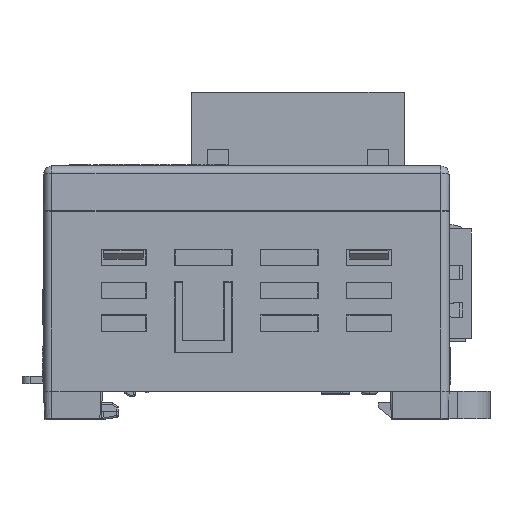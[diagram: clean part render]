
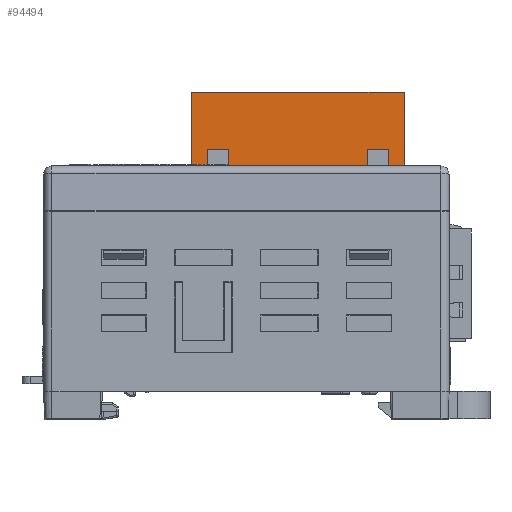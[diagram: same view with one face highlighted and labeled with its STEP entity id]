
A CAD part, left-side view. The second image highlights one B-rep face of the part: STEP entity #94494.
In plain terms, the highlighted planar face has unit normal (-1, 0, 0).
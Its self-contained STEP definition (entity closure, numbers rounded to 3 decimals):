
#1064=DIRECTION('',(0.,1.,0.));
#1065=VECTOR('',#1064,1.);
#1066=CARTESIAN_POINT('',(-13.22,-19.25,27.5));
#1067=LINE('',#1066,#1065);
#1080=DIRECTION('',(0.,1.,0.));
#1081=VECTOR('',#1080,1.);
#1082=CARTESIAN_POINT('',(-13.22,-13.3,27.5));
#1083=LINE('',#1082,#1081);
#1096=DIRECTION('',(0.,1.,0.));
#1097=VECTOR('',#1096,1.);
#1098=CARTESIAN_POINT('',(-13.22,-6.8,27.5));
#1099=LINE('',#1098,#1097);
#1112=DIRECTION('',(0.,1.,0.));
#1113=VECTOR('',#1112,1.);
#1114=CARTESIAN_POINT('',(-13.22,-0.3,27.5));
#1115=LINE('',#1114,#1113);
#1128=DIRECTION('',(0.,1.,0.));
#1129=VECTOR('',#1128,1.);
#1130=CARTESIAN_POINT('',(-13.22,5.65,27.5));
#1131=LINE('',#1130,#1129);
#8278=DIRECTION('',(0.,-1.,0.));
#8279=VECTOR('',#8278,0.9);
#8280=CARTESIAN_POINT('',(-13.22,-17.35,28.));
#8281=LINE('',#8280,#8279);
#8282=DIRECTION('',(0.,-1.,0.));
#8283=VECTOR('',#8282,2.6);
#8284=CARTESIAN_POINT('',(-13.22,-14.75,33.));
#8285=LINE('',#8284,#8283);
#8286=DIRECTION('',(0.,0.,1.));
#8287=VECTOR('',#8286,5.);
#8288=CARTESIAN_POINT('',(-13.22,-14.75,28.));
#8289=LINE('',#8288,#8287);
#8290=DIRECTION('',(0.,-1.,0.));
#8291=VECTOR('',#8290,1.45);
#8292=CARTESIAN_POINT('',(-13.22,-13.3,28.));
#8293=LINE('',#8292,#8291);
#8294=DIRECTION('',(0.,-1.,0.));
#8295=VECTOR('',#8294,5.5);
#8296=CARTESIAN_POINT('',(-13.22,-6.8,28.));
#8297=LINE('',#8296,#8295);
#8298=DIRECTION('',(0.,-1.,0.));
#8299=VECTOR('',#8298,5.5);
#8300=CARTESIAN_POINT('',(-13.22,-0.3,28.));
#8301=LINE('',#8300,#8299);
#8302=DIRECTION('',(0.,-1.,0.));
#8303=VECTOR('',#8302,1.45);
#8304=CARTESIAN_POINT('',(-13.22,2.15,28.));
#8305=LINE('',#8304,#8303);
#8306=DIRECTION('',(0.,-1.,0.));
#8307=VECTOR('',#8306,0.9);
#8308=CARTESIAN_POINT('',(-13.22,5.65,28.));
#8309=LINE('',#8308,#8307);
#8318=DIRECTION('',(0.,0.,1.));
#8319=VECTOR('',#8318,0.5);
#8320=CARTESIAN_POINT('',(-13.22,-18.25,27.5));
#8321=LINE('',#8320,#8319);
#8334=DIRECTION('',(0.,0.,-1.));
#8335=VECTOR('',#8334,12.5);
#8336=CARTESIAN_POINT('',(-13.22,-19.25,40.));
#8337=LINE('',#8336,#8335);
#8466=DIRECTION('',(0.,0.,1.));
#8467=VECTOR('',#8466,12.5);
#8468=CARTESIAN_POINT('',(-13.22,6.65,27.5));
#8469=LINE('',#8468,#8467);
#10216=DIRECTION('',(0.,0.,-1.));
#10217=VECTOR('',#10216,0.5);
#10218=CARTESIAN_POINT('',(-13.22,5.65,28.));
#10219=LINE('',#10218,#10217);
#10484=DIRECTION('',(0.,0.,-1.));
#10485=VECTOR('',#10484,5.);
#10486=CARTESIAN_POINT('',(-13.22,-17.35,33.));
#10487=LINE('',#10486,#10485);
#10820=DIRECTION('',(0.,0.,1.));
#10821=VECTOR('',#10820,5.);
#10822=CARTESIAN_POINT('',(-13.22,4.75,28.));
#10823=LINE('',#10822,#10821);
#10840=DIRECTION('',(0.,-1.,0.));
#10841=VECTOR('',#10840,2.6);
#10842=CARTESIAN_POINT('',(-13.22,4.75,33.));
#10843=LINE('',#10842,#10841);
#10848=DIRECTION('',(0.,0.,-1.));
#10849=VECTOR('',#10848,5.);
#10850=CARTESIAN_POINT('',(-13.22,2.15,33.));
#10851=LINE('',#10850,#10849);
#13804=DIRECTION('',(0.,-1.,0.));
#13805=VECTOR('',#13804,25.9);
#13806=CARTESIAN_POINT('',(-13.22,6.65,40.));
#13807=LINE('',#13806,#13805);
#14064=DIRECTION('',(0.,0.,-1.));
#14065=VECTOR('',#14064,0.5);
#14066=CARTESIAN_POINT('',(-13.22,-13.3,28.));
#14067=LINE('',#14066,#14065);
#14088=DIRECTION('',(0.,0.,1.));
#14089=VECTOR('',#14088,0.5);
#14090=CARTESIAN_POINT('',(-13.22,-12.3,27.5));
#14091=LINE('',#14090,#14089);
#14092=DIRECTION('',(0.,0.,-1.));
#14093=VECTOR('',#14092,0.5);
#14094=CARTESIAN_POINT('',(-13.22,-6.8,28.));
#14095=LINE('',#14094,#14093);
#14116=DIRECTION('',(0.,0.,1.));
#14117=VECTOR('',#14116,0.5);
#14118=CARTESIAN_POINT('',(-13.22,-5.8,27.5));
#14119=LINE('',#14118,#14117);
#14120=DIRECTION('',(0.,0.,-1.));
#14121=VECTOR('',#14120,0.5);
#14122=CARTESIAN_POINT('',(-13.22,-0.3,28.));
#14123=LINE('',#14122,#14121);
#14144=DIRECTION('',(0.,0.,1.));
#14145=VECTOR('',#14144,0.5);
#14146=CARTESIAN_POINT('',(-13.22,0.7,27.5));
#14147=LINE('',#14146,#14145);
#67912=CARTESIAN_POINT('',(-13.22,-14.75,28.));
#67914=VERTEX_POINT('',#67912);
#67917=CARTESIAN_POINT('',(-13.22,-17.35,28.));
#67918=VERTEX_POINT('',#67917);
#67919=CARTESIAN_POINT('',(-13.22,-18.25,28.));
#67920=VERTEX_POINT('',#67919);
#67997=CARTESIAN_POINT('',(-13.22,5.65,28.));
#67998=VERTEX_POINT('',#67997);
#67999=CARTESIAN_POINT('',(-13.22,4.75,28.));
#68000=VERTEX_POINT('',#67999);
#68005=CARTESIAN_POINT('',(-13.22,2.15,28.));
#68006=VERTEX_POINT('',#68005);
#68007=CARTESIAN_POINT('',(-13.22,0.7,28.));
#68008=VERTEX_POINT('',#68007);
#68013=CARTESIAN_POINT('',(-13.22,-0.3,28.));
#68014=VERTEX_POINT('',#68013);
#68015=CARTESIAN_POINT('',(-13.22,-5.8,28.));
#68016=VERTEX_POINT('',#68015);
#68021=CARTESIAN_POINT('',(-13.22,-6.8,28.));
#68022=VERTEX_POINT('',#68021);
#68023=CARTESIAN_POINT('',(-13.22,-12.3,28.));
#68024=VERTEX_POINT('',#68023);
#68029=CARTESIAN_POINT('',(-13.22,-13.3,28.));
#68030=VERTEX_POINT('',#68029);
#69033=CARTESIAN_POINT('',(-13.22,-17.35,33.));
#69034=VERTEX_POINT('',#69033);
#69035=CARTESIAN_POINT('',(-13.22,-14.75,33.));
#69036=VERTEX_POINT('',#69035);
#69037=CARTESIAN_POINT('',(-13.22,2.15,33.));
#69038=VERTEX_POINT('',#69037);
#69039=CARTESIAN_POINT('',(-13.22,4.75,33.));
#69040=VERTEX_POINT('',#69039);
#69041=CARTESIAN_POINT('',(-13.22,6.65,40.));
#69042=CARTESIAN_POINT('',(-13.22,-19.25,40.));
#69043=VERTEX_POINT('',#69041);
#69044=VERTEX_POINT('',#69042);
#78753=CARTESIAN_POINT('',(-13.22,-19.25,27.5));
#78754=CARTESIAN_POINT('',(-13.22,-18.25,27.5));
#78755=VERTEX_POINT('',#78753);
#78756=VERTEX_POINT('',#78754);
#78757=CARTESIAN_POINT('',(-13.22,-13.3,27.5));
#78758=CARTESIAN_POINT('',(-13.22,-12.3,27.5));
#78759=VERTEX_POINT('',#78757);
#78760=VERTEX_POINT('',#78758);
#78761=CARTESIAN_POINT('',(-13.22,-6.8,27.5));
#78762=CARTESIAN_POINT('',(-13.22,-5.8,27.5));
#78763=VERTEX_POINT('',#78761);
#78764=VERTEX_POINT('',#78762);
#78765=CARTESIAN_POINT('',(-13.22,-0.3,27.5));
#78766=CARTESIAN_POINT('',(-13.22,0.7,27.5));
#78767=VERTEX_POINT('',#78765);
#78768=VERTEX_POINT('',#78766);
#78769=CARTESIAN_POINT('',(-13.22,5.65,27.5));
#78770=CARTESIAN_POINT('',(-13.22,6.65,27.5));
#78771=VERTEX_POINT('',#78769);
#78772=VERTEX_POINT('',#78770);
#94443=CARTESIAN_POINT('',(-13.22,-6.3,33.5));
#94444=DIRECTION('',(1.,0.,0.));
#94445=DIRECTION('',(0.,0.,-1.));
#94446=AXIS2_PLACEMENT_3D('',#94443,#94444,#94445);
#94447=PLANE('',#94446);
#94448=ORIENTED_EDGE('',*,*,#80499,.T.);
#94450=ORIENTED_EDGE('',*,*,#94449,.T.);
#94451=ORIENTED_EDGE('',*,*,#93776,.F.);
#94453=ORIENTED_EDGE('',*,*,#94452,.F.);
#94455=ORIENTED_EDGE('',*,*,#94454,.F.);
#94456=ORIENTED_EDGE('',*,*,#94425,.F.);
#94457=ORIENTED_EDGE('',*,*,#93888,.F.);
#94459=ORIENTED_EDGE('',*,*,#94458,.T.);
#94460=ORIENTED_EDGE('',*,*,#80509,.T.);
#94462=ORIENTED_EDGE('',*,*,#94461,.T.);
#94463=ORIENTED_EDGE('',*,*,#93880,.F.);
#94465=ORIENTED_EDGE('',*,*,#94464,.T.);
#94466=ORIENTED_EDGE('',*,*,#80519,.T.);
#94468=ORIENTED_EDGE('',*,*,#94467,.T.);
#94469=ORIENTED_EDGE('',*,*,#93872,.F.);
#94471=ORIENTED_EDGE('',*,*,#94470,.T.);
#94472=ORIENTED_EDGE('',*,*,#80529,.T.);
#94474=ORIENTED_EDGE('',*,*,#94473,.T.);
#94475=ORIENTED_EDGE('',*,*,#93864,.F.);
#94477=ORIENTED_EDGE('',*,*,#94476,.F.);
#94479=ORIENTED_EDGE('',*,*,#94478,.F.);
#94481=ORIENTED_EDGE('',*,*,#94480,.F.);
#94482=ORIENTED_EDGE('',*,*,#93856,.F.);
#94484=ORIENTED_EDGE('',*,*,#94483,.T.);
#94485=ORIENTED_EDGE('',*,*,#80539,.T.);
#94487=ORIENTED_EDGE('',*,*,#94486,.T.);
#94489=ORIENTED_EDGE('',*,*,#94488,.T.);
#94491=ORIENTED_EDGE('',*,*,#94490,.T.);
#94492=EDGE_LOOP('',(#94448,#94450,#94451,#94453,#94455,#94456,#94457,#94459,
#94460,#94462,#94463,#94465,#94466,#94468,#94469,#94471,#94472,#94474,#94475,
#94477,#94479,#94481,#94482,#94484,#94485,#94487,#94489,#94491));
#94493=FACE_OUTER_BOUND('',#94492,.F.);
#94494=ADVANCED_FACE('',(#94493),#94447,.F.);
#80499=EDGE_CURVE('',#78755,#78756,#1067,.T.);
#80509=EDGE_CURVE('',#78759,#78760,#1083,.T.);
#80519=EDGE_CURVE('',#78763,#78764,#1099,.T.);
#80529=EDGE_CURVE('',#78767,#78768,#1115,.T.);
#80539=EDGE_CURVE('',#78771,#78772,#1131,.T.);
#93776=EDGE_CURVE('',#67918,#67920,#8281,.T.);
#93856=EDGE_CURVE('',#67998,#68000,#8309,.T.);
#93864=EDGE_CURVE('',#68006,#68008,#8305,.T.);
#93872=EDGE_CURVE('',#68014,#68016,#8301,.T.);
#93880=EDGE_CURVE('',#68022,#68024,#8297,.T.);
#93888=EDGE_CURVE('',#68030,#67914,#8293,.T.);
#94425=EDGE_CURVE('',#67914,#69036,#8289,.T.);
#94449=EDGE_CURVE('',#78756,#67920,#8321,.T.);
#94452=EDGE_CURVE('',#69034,#67918,#10487,.T.);
#94454=EDGE_CURVE('',#69036,#69034,#8285,.T.);
#94458=EDGE_CURVE('',#68030,#78759,#14067,.T.);
#94461=EDGE_CURVE('',#78760,#68024,#14091,.T.);
#94464=EDGE_CURVE('',#68022,#78763,#14095,.T.);
#94467=EDGE_CURVE('',#78764,#68016,#14119,.T.);
#94470=EDGE_CURVE('',#68014,#78767,#14123,.T.);
#94473=EDGE_CURVE('',#78768,#68008,#14147,.T.);
#94476=EDGE_CURVE('',#69038,#68006,#10851,.T.);
#94478=EDGE_CURVE('',#69040,#69038,#10843,.T.);
#94480=EDGE_CURVE('',#68000,#69040,#10823,.T.);
#94483=EDGE_CURVE('',#67998,#78771,#10219,.T.);
#94486=EDGE_CURVE('',#78772,#69043,#8469,.T.);
#94488=EDGE_CURVE('',#69043,#69044,#13807,.T.);
#94490=EDGE_CURVE('',#69044,#78755,#8337,.T.);
